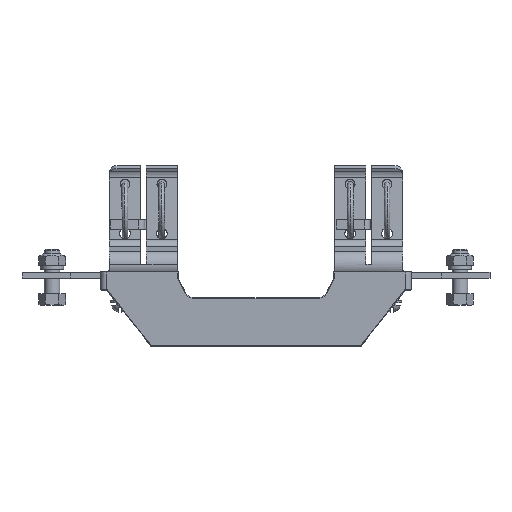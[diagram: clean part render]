
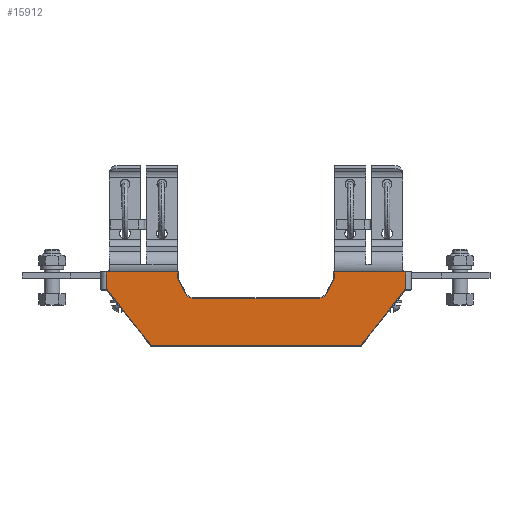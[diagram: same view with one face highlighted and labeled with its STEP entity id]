
A CAD part, top view. The second image highlights one B-rep face of the part: STEP entity #15912.
In plain terms, the highlighted planar face has unit normal (0, 0, 1).
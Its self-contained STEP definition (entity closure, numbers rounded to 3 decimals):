
#11 = PLANE ( 'NONE',  #9096 ) ;
#101 = VERTEX_POINT ( 'NONE', #21684 ) ;
#968 = VECTOR ( 'NONE', #24715, 1000. ) ;
#984 = EDGE_LOOP ( 'NONE', ( #9673, #31121, #30357, #35297, #4871, #8503, #10767, #3110, #19492, #19970, #5054, #20882, #34703, #12417, #6979, #21995 ) ) ;
#1197 = CARTESIAN_POINT ( 'NONE',  ( 76.675, 4.069, 30. ) ) ;
#1282 = LINE ( 'NONE', #12274, #30155 ) ;
#1496 = CARTESIAN_POINT ( 'NONE',  ( -77., 13.197, 30. ) ) ;
#1988 = CARTESIAN_POINT ( 'NONE',  ( 32., -0.3, 30. ) ) ;
#2044 = DIRECTION ( 'NONE',  ( -0.438, -0.899, 0. ) ) ;
#2651 = EDGE_CURVE ( 'NONE', #8007, #13736, #8523, .T. ) ;
#2879 = DIRECTION ( 'NONE',  ( 0., -1., 0. ) ) ;
#3110 = ORIENTED_EDGE ( 'NONE', *, *, #36355, .T. ) ;
#3938 = DIRECTION ( 'NONE',  ( 0., 0., -1. ) ) ;
#4251 = CARTESIAN_POINT ( 'NONE',  ( -53.765, -24.817, 30. ) ) ;
#4369 = EDGE_CURVE ( 'NONE', #6660, #35352, #29123, .T. ) ;
#4551 = DIRECTION ( 'NONE',  ( 1., 0., 0. ) ) ;
#4861 = FACE_OUTER_BOUND ( 'NONE', #984, .T. ) ;
#4871 = ORIENTED_EDGE ( 'NONE', *, *, #4369, .T. ) ;
#4996 = LINE ( 'NONE', #24606, #10289 ) ;
#5054 = ORIENTED_EDGE ( 'NONE', *, *, #13526, .T. ) ;
#5508 = CARTESIAN_POINT ( 'NONE',  ( -36.764, 2.677, 30. ) ) ;
#6478 = CIRCLE ( 'NONE', #10384, 5.3 ) ;
#6660 = VERTEX_POINT ( 'NONE', #11689 ) ;
#6809 = DIRECTION ( 'NONE',  ( 0., -1., 0. ) ) ;
#6834 = CARTESIAN_POINT ( 'NONE',  ( 76.765, 4.183, 30. ) ) ;
#6979 = ORIENTED_EDGE ( 'NONE', *, *, #12257, .T. ) ;
#6980 = LINE ( 'NONE', #35546, #7866 ) ;
#7429 = CARTESIAN_POINT ( 'NONE',  ( 40., 13.197, 30. ) ) ;
#7866 = VECTOR ( 'NONE', #32471, 1000. ) ;
#8007 = VERTEX_POINT ( 'NONE', #13845 ) ;
#8461 = DIRECTION ( 'NONE',  ( 0., 0., 1. ) ) ;
#8503 = ORIENTED_EDGE ( 'NONE', *, *, #28469, .T. ) ;
#8523 = LINE ( 'NONE', #21658, #968 ) ;
#8623 = DIRECTION ( 'NONE',  ( 0., -1., 0. ) ) ;
#8768 = EDGE_CURVE ( 'NONE', #26166, #25227, #9951, .T. ) ;
#9060 = VECTOR ( 'NONE', #12415, 1000. ) ;
#9083 = AXIS2_PLACEMENT_3D ( 'NONE', #25732, #10981, #8623 ) ;
#9096 = AXIS2_PLACEMENT_3D ( 'NONE', #25313, #8461, #11302 ) ;
#9242 = CARTESIAN_POINT ( 'NONE',  ( 53.855, -24.703, 30. ) ) ;
#9360 = DIRECTION ( 'NONE',  ( 0., -1., 0. ) ) ;
#9673 = ORIENTED_EDGE ( 'NONE', *, *, #8768, .T. ) ;
#9951 = LINE ( 'NONE', #6834, #28611 ) ;
#10184 = LINE ( 'NONE', #36063, #32859 ) ;
#10289 = VECTOR ( 'NONE', #4551, 1000. ) ;
#10359 = CIRCLE ( 'NONE', #9083, 0.6 ) ;
#10384 = AXIS2_PLACEMENT_3D ( 'NONE', #32394, #12375, #6809 ) ;
#10520 = CARTESIAN_POINT ( 'NONE',  ( 40.3, 9.927, 30. ) ) ;
#10767 = ORIENTED_EDGE ( 'NONE', *, *, #29148, .T. ) ;
#10923 = CARTESIAN_POINT ( 'NONE',  ( 32., 5., 30. ) ) ;
#10981 = DIRECTION ( 'NONE',  ( 0., 0., -1. ) ) ;
#11302 = DIRECTION ( 'NONE',  ( 0., -1., 0. ) ) ;
#11689 = CARTESIAN_POINT ( 'NONE',  ( 40.3, 13.197, 30. ) ) ;
#12081 = CARTESIAN_POINT ( 'NONE',  ( -53.855, -24.703, 30. ) ) ;
#12257 = EDGE_CURVE ( 'NONE', #30847, #26314, #25947, .T. ) ;
#12274 = CARTESIAN_POINT ( 'NONE',  ( -40.3, 13.497, 30. ) ) ;
#12375 = DIRECTION ( 'NONE',  ( 0., 0., -1. ) ) ;
#12415 = DIRECTION ( 'NONE',  ( 0.621, -0.783, 0. ) ) ;
#12417 = ORIENTED_EDGE ( 'NONE', *, *, #29679, .T. ) ;
#13363 = AXIS2_PLACEMENT_3D ( 'NONE', #10923, #19381, #2879 ) ;
#13383 = EDGE_CURVE ( 'NONE', #13736, #6660, #30622, .T. ) ;
#13389 = DIRECTION ( 'NONE',  ( 0., -1., 0. ) ) ;
#13526 = EDGE_CURVE ( 'NONE', #35771, #101, #1282, .T. ) ;
#13736 = VERTEX_POINT ( 'NONE', #35351 ) ;
#13845 = CARTESIAN_POINT ( 'NONE',  ( 77., 4.279, 30. ) ) ;
#14249 = VERTEX_POINT ( 'NONE', #30346 ) ;
#15215 = VERTEX_POINT ( 'NONE', #34277 ) ;
#15908 = CARTESIAN_POINT ( 'NONE',  ( -76.675, 4.069, 30. ) ) ;
#15912 = ADVANCED_FACE ( 'NONE', ( #4861 ), #11, .T. ) ;
#17780 = VERTEX_POINT ( 'NONE', #5508 ) ;
#18450 = CARTESIAN_POINT ( 'NONE',  ( -77., 13.197, 30. ) ) ;
#18796 = DIRECTION ( 'NONE',  ( -0.438, 0.899, 0. ) ) ;
#19110 = CARTESIAN_POINT ( 'NONE',  ( -32., -0.3, 30. ) ) ;
#19219 = CARTESIAN_POINT ( 'NONE',  ( 40.3, 9.997, 30. ) ) ;
#19381 = DIRECTION ( 'NONE',  ( 0., 0., -1. ) ) ;
#19492 = ORIENTED_EDGE ( 'NONE', *, *, #21087, .T. ) ;
#19666 = EDGE_CURVE ( 'NONE', #35303, #14249, #35466, .T. ) ;
#19946 = VECTOR ( 'NONE', #18796, 1000. ) ;
#19970 = ORIENTED_EDGE ( 'NONE', *, *, #34443, .T. ) ;
#20211 = LINE ( 'NONE', #18450, #29495 ) ;
#20882 = ORIENTED_EDGE ( 'NONE', *, *, #23012, .T. ) ;
#21087 = EDGE_CURVE ( 'NONE', #24679, #17780, #6478, .T. ) ;
#21658 = CARTESIAN_POINT ( 'NONE',  ( 77., 13.497, 30. ) ) ;
#21684 = CARTESIAN_POINT ( 'NONE',  ( -40.3, 13.197, 30. ) ) ;
#21995 = ORIENTED_EDGE ( 'NONE', *, *, #29953, .T. ) ;
#22939 = AXIS2_PLACEMENT_3D ( 'NONE', #23865, #3938, #9360 ) ;
#23012 = EDGE_CURVE ( 'NONE', #101, #35303, #20211, .T. ) ;
#23229 = EDGE_CURVE ( 'NONE', #25227, #8007, #10359, .T. ) ;
#23865 = CARTESIAN_POINT ( 'NONE',  ( -77.145, 3.697, 30. ) ) ;
#24059 = DIRECTION ( 'NONE',  ( 0.621, 0.783, 0. ) ) ;
#24174 = CIRCLE ( 'NONE', #13363, 5.3 ) ;
#24384 = DIRECTION ( 'NONE',  ( -1., 0., 0. ) ) ;
#24606 = CARTESIAN_POINT ( 'NONE',  ( 54., -24.703, 30. ) ) ;
#24679 = VERTEX_POINT ( 'NONE', #19110 ) ;
#24715 = DIRECTION ( 'NONE',  ( 0., 1., 0. ) ) ;
#25227 = VERTEX_POINT ( 'NONE', #1197 ) ;
#25313 = CARTESIAN_POINT ( 'NONE',  ( 32., 5., 30. ) ) ;
#25732 = CARTESIAN_POINT ( 'NONE',  ( 77.145, 3.697, 30. ) ) ;
#25947 = LINE ( 'NONE', #4251, #9060 ) ;
#26047 = DIRECTION ( 'NONE',  ( 0., 1., 0. ) ) ;
#26166 = VERTEX_POINT ( 'NONE', #9242 ) ;
#26314 = VERTEX_POINT ( 'NONE', #12081 ) ;
#26401 = CARTESIAN_POINT ( 'NONE',  ( -77., 3.997, 30. ) ) ;
#27071 = CARTESIAN_POINT ( 'NONE',  ( -40.27, 9.865, 30. ) ) ;
#27257 = DIRECTION ( 'NONE',  ( -1., 0., 0. ) ) ;
#27893 = VECTOR ( 'NONE', #29141, 1000. ) ;
#28469 = EDGE_CURVE ( 'NONE', #35352, #15215, #10184, .T. ) ;
#28611 = VECTOR ( 'NONE', #24059, 1000. ) ;
#29123 = LINE ( 'NONE', #19219, #32270 ) ;
#29141 = DIRECTION ( 'NONE',  ( 0., -1., 0. ) ) ;
#29148 = EDGE_CURVE ( 'NONE', #15215, #31416, #24174, .T. ) ;
#29495 = VECTOR ( 'NONE', #24384, 1000. ) ;
#29679 = EDGE_CURVE ( 'NONE', #14249, #30847, #30327, .T. ) ;
#29953 = EDGE_CURVE ( 'NONE', #26314, #26166, #4996, .T. ) ;
#30155 = VECTOR ( 'NONE', #26047, 1000. ) ;
#30327 = CIRCLE ( 'NONE', #22939, 0.6 ) ;
#30346 = CARTESIAN_POINT ( 'NONE',  ( -77., 4.279, 30. ) ) ;
#30357 = ORIENTED_EDGE ( 'NONE', *, *, #2651, .T. ) ;
#30622 = LINE ( 'NONE', #7429, #33743 ) ;
#30847 = VERTEX_POINT ( 'NONE', #15908 ) ;
#31121 = ORIENTED_EDGE ( 'NONE', *, *, #23229, .T. ) ;
#31416 = VERTEX_POINT ( 'NONE', #1988 ) ;
#31777 = CARTESIAN_POINT ( 'NONE',  ( -40.3, 9.927, 30. ) ) ;
#32270 = VECTOR ( 'NONE', #13389, 1000. ) ;
#32371 = LINE ( 'NONE', #27071, #19946 ) ;
#32394 = CARTESIAN_POINT ( 'NONE',  ( -32., 5., 30. ) ) ;
#32471 = DIRECTION ( 'NONE',  ( -1., 0., 0. ) ) ;
#32859 = VECTOR ( 'NONE', #2044, 1000. ) ;
#33743 = VECTOR ( 'NONE', #27257, 1000. ) ;
#34277 = CARTESIAN_POINT ( 'NONE',  ( 36.764, 2.677, 30. ) ) ;
#34443 = EDGE_CURVE ( 'NONE', #17780, #35771, #32371, .T. ) ;
#34703 = ORIENTED_EDGE ( 'NONE', *, *, #19666, .T. ) ;
#35297 = ORIENTED_EDGE ( 'NONE', *, *, #13383, .T. ) ;
#35303 = VERTEX_POINT ( 'NONE', #1496 ) ;
#35351 = CARTESIAN_POINT ( 'NONE',  ( 77., 13.197, 30. ) ) ;
#35352 = VERTEX_POINT ( 'NONE', #10520 ) ;
#35466 = LINE ( 'NONE', #26401, #27893 ) ;
#35546 = CARTESIAN_POINT ( 'NONE',  ( -32., -0.3, 30. ) ) ;
#35771 = VERTEX_POINT ( 'NONE', #31777 ) ;
#36063 = CARTESIAN_POINT ( 'NONE',  ( 36.764, 2.677, 30. ) ) ;
#36355 = EDGE_CURVE ( 'NONE', #31416, #24679, #6980, .T. ) ;
